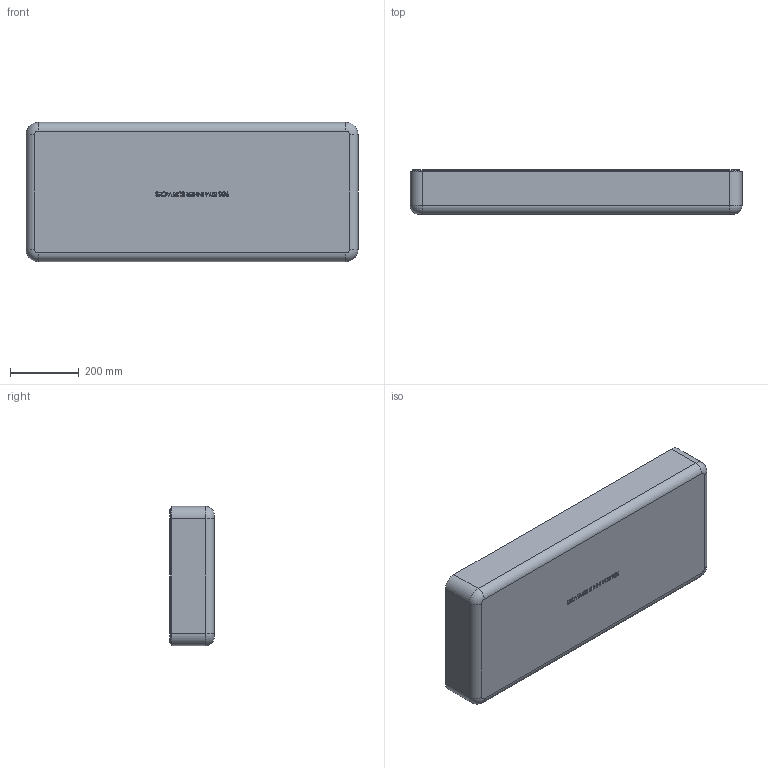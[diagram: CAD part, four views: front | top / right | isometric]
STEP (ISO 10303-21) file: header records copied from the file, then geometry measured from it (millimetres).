
FILE_DESCRIPTION (( 'STEP AP203' ), '1' );
FILE_NAME ('985_Btm_INNER_SURFACES.STEP', '2019-04-16T19:37:51', ( '' ), ( '' ), 'SwSTEP 2.0', 'SolidWorks 2018', '' );
FILE_SCHEMA (( 'CONFIG_CONTROL_DESIGN' ));
Length unit declared in the file: inch
Products named in the file (1): 985_Btm_INNER_SURFACES
Bounding box: 964.87 x 129.63 x 404.65 mm (x, y, z)
Volume: 11547401.1 mm3; surface area: 1371517 mm2
Topology: 1 solids, 9 shells, 1708 faces, 4112 edges, 2367 vertices
Faces by surface type: bspline 825, cylinder 402, plane 361, torus 66, cone 38, sphere 16
Entity records: 96955 total; most frequent: CARTESIAN_POINT 64153, ORIENTED_EDGE 8048, DIRECTION 5179, EDGE_CURVE 4024, VERTEX_POINT 2367, AXIS2_PLACEMENT_3D 1908, EDGE_LOOP 1741, ADVANCED_FACE 1708
